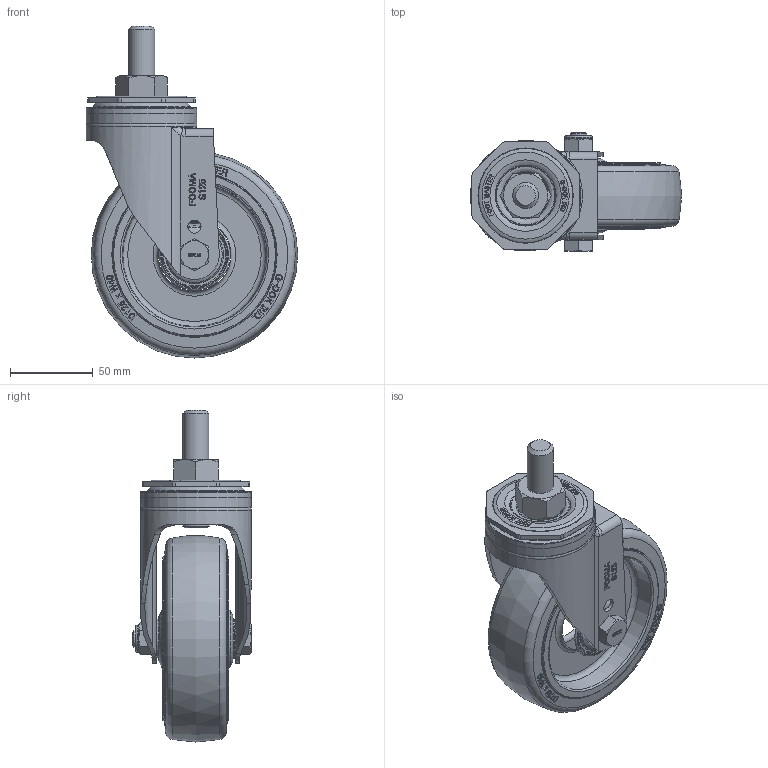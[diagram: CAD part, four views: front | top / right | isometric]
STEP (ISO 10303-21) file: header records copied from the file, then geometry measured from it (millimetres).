
FILE_DESCRIPTION(/* description */ (''),/* implementation_level */ '2;1');
FILE_NAME(/* name */ '\\192.168.10.38\지덕공유\1.기술연구소\2.연구개발 진행중\98.스테인레스캐스터 개발건_2023.10.26\제품설계\3D\홈페이지용\SPLM-125-ASS-HRD.stp',/* time_stamp */ '2025-02-20T07:55:19+09:00',/* author */ ('admin'),/* organization */ ('지덕산업'),/* preprocessor_version */ 'ST-DEVELOPER v18.1',/* originating_system */ 'Autodesk Inventor 2021',/* authorisation */ '');
FILE_SCHEMA (('CONFIG_CONTROL_DESIGN'));
Products named in the file (1): SPLM-125-ASS-HRD
Bounding box: 128 x 72.3 x 201 mm (x, y, z)
Volume: 460184.8 mm3; surface area: 88353 mm2
Topology: 1 solids, 1 shells, 1445 faces, 3857 edges, 2514 vertices
Faces by surface type: plane 660, bspline 488, cylinder 112, cone 109, torus 68, sphere 8
Full cylindrical faces by diameter (mm): 8 x2, 10 x1, 11 x1, 15.875 x1, 16 x2, 16.5 x1, 30 x1, 40.105 x1, 40.971 x1, 54 x1, 67 x1
Entity records: 49154 total; most frequent: CARTESIAN_POINT 17788, ORIENTED_EDGE 7690, DIRECTION 4663, EDGE_CURVE 3845, VERTEX_POINT 2514, LINE 1807, VECTOR 1807, EDGE_LOOP 1563
